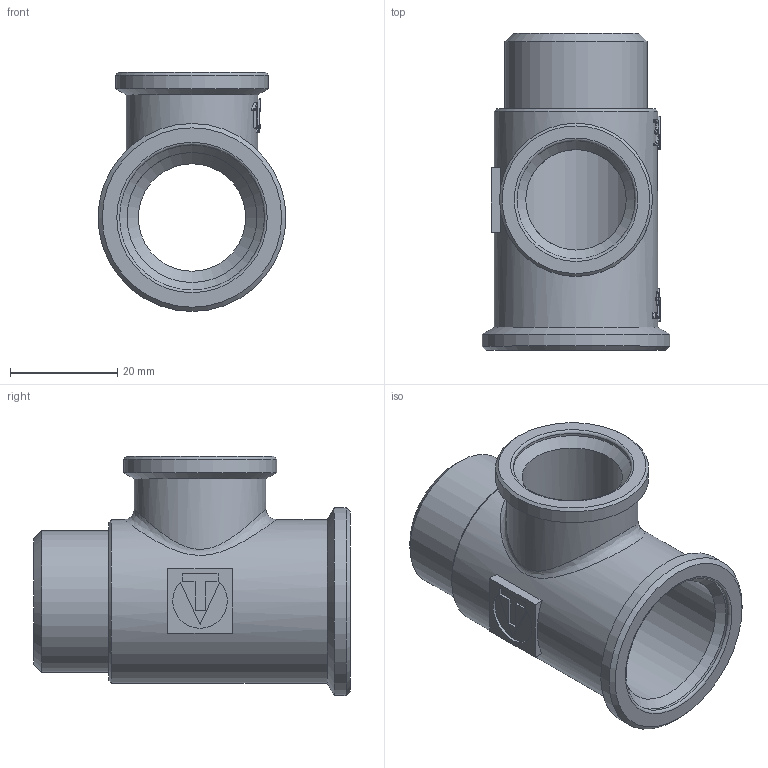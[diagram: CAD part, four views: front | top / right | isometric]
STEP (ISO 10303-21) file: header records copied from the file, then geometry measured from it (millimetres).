
FILE_DESCRIPTION(('STEP AP203'), '1');
FILE_NAME('ÂÐ.752249.014 - VTr.134.RN.050405 - Òðîé. ñ ïåðåõ. íà íàð. ðåçüá', '2024-06-26T07:52:58', ('Boss'), (''), 'C3D Converter', 'C3D Toolkit', '');
FILE_SCHEMA(('CONFIG_CONTROL_DESIGN'));
Length unit declared in the file: millimetre
Products named in the file (1): ВР.752249.014
Bounding box: 35 x 59 x 44.5 mm (x, y, z)
Volume: 19191.9 mm3; surface area: 12483 mm2
Topology: 1 solids, 1 shells, 349 faces, 968 edges, 640 vertices
Faces by surface type: extrusion 196, plane 114, cylinder 26, cone 10, torus 2, bspline 1
Full cylindrical faces by diameter (mm): 18.7 x1, 20 x1, 22 x1, 24.2 x1, 24.5 x1, 26.441 x1, 27 x1, 28.5 x1, 30.5 x1, 35 x1
Entity records: 15877 total; most frequent: CARTESIAN_POINT 8048, ORIENTED_EDGE 1888, DIRECTION 1014, EDGE_CURVE 944, VERTEX_POINT 640, B_SPLINE_CURVE_WITH_KNOTS 591, VECTOR 562, EDGE_LOOP 396
